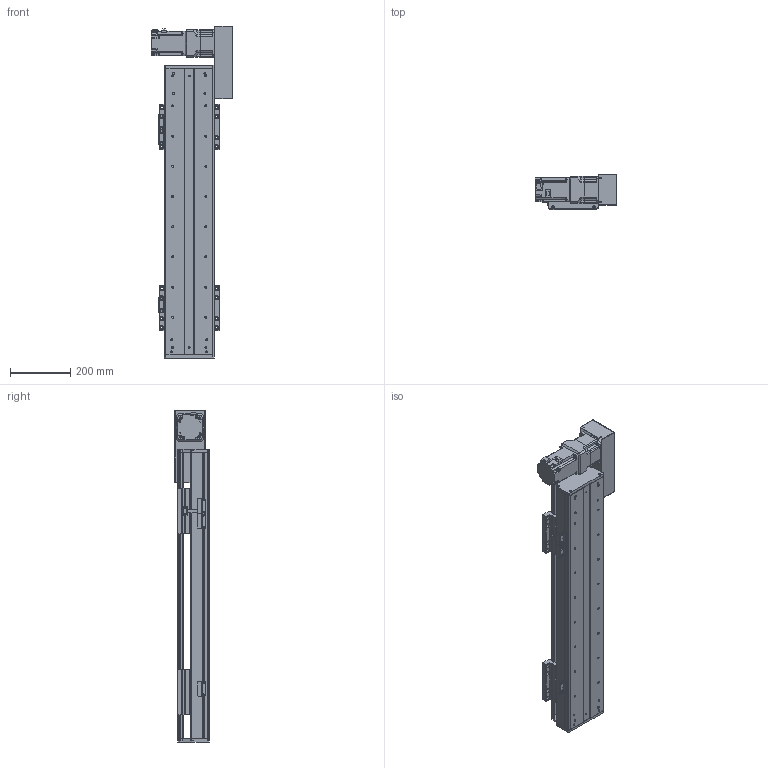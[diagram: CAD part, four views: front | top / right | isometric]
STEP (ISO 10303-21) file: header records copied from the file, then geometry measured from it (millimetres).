
FILE_DESCRIPTION(/* description */ (''),/* implementation_level */ '2;1');
FILE_NAME(/* name */ 'C:\Users\PC\Desktop\3D도면\STEP\DSB165-R7G-W0600-L.stp',/* time_stamp */ '2018-06-25T14:37:18+09:00',/* author */ ('PC'),/* organization */ (''),/* preprocessor_version */ 'ST-DEVELOPER v16.5',/* originating_system */ 'Autodesk Inventor 2017',/* authorisation */ '');
FILE_SCHEMA (('AUTOMOTIVE_DESIGN { 1 0 10303 214 3 1 1 }'));
Length unit declared in the file: millimetre
Products named in the file (12): DSB165-L7G-W0600-R_MIR; DSB165-BASE-L_MIR; hg-kr73__MIR; ab0901-p0401300102_MIR; 11-DSB165 BELT COVER_MIR; 12-DSB165-REAR COVER_MIR; 14-DSB165-FRONT COVER_MIR; DSB165-UP COVER_MIR; DSB165-TABLE(MSB20S)_MIR; DSR165-SENSOR DOG_MIR; pm-y65_step_MIR; SENSOR BRACKET(EE-SX674A)_MIR
Assembly tree (16 placements, depth 2):
  DSB165-L7G-W0600-R_MIR
    DSB165-BASE-L_MIR
    hg-kr73__MIR
    ab0901-p0401300102_MIR
    11-DSB165 BELT COVER_MIR
    12-DSB165-REAR COVER_MIR
    14-DSB165-FRONT COVER_MIR
    DSB165-UP COVER_MIR
    DSB165-TABLE(MSB20S)_MIR  x2
    DSR165-SENSOR DOG_MIR
    pm-y65_step_MIR  x3
    SENSOR BRACKET(EE-SX674A)_MIR  x3
Bounding box: 270 x 115 x 1100 mm (x, y, z)
Volume: 7038603.3 mm3; surface area: 1618917.9 mm2
Topology: 17 solids, 17 shells, 1653 faces, 4444 edges, 2930 vertices
Faces by surface type: plane 921, cylinder 612, cone 108, sphere 8, torus 4
Full cylindrical faces by diameter (mm): 2.459 x20, 3.5 x6, 4.134 x42, 4.5 x18, 5 x27, 5.5 x36, 5.9 x4, 6 x4, 6.6 x14, 6.647 x36, 6.8 x1, 7 x4, 7.6 x4, 8.4 x1, 8.5 x24, 8.7 x1, 9.5 x32, 11 x6, 14 x16, 19 x1, 22 x1, 24 x1, 25 x1, 28 x1, 67 x1, 70 x2, 80 x1
Entity records: 35836 total; most frequent: DIRECTION 6202, CARTESIAN_POINT 6027, ORIENTED_EDGE 5506, EDGE_CURVE 2753, AXIS2_PLACEMENT_3D 2271, VERTEX_POINT 1958, EDGE_LOOP 1703, LINE 1660
